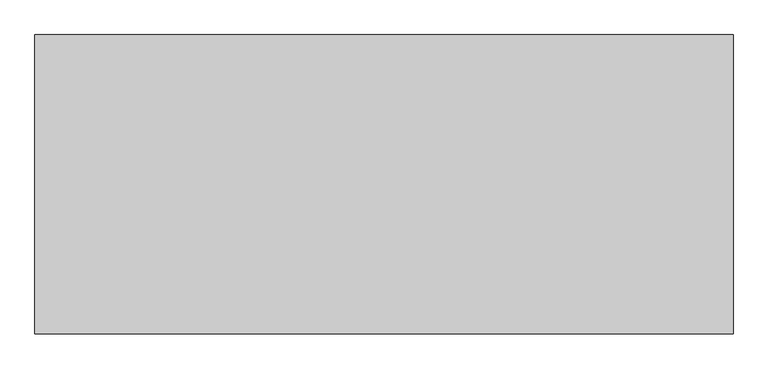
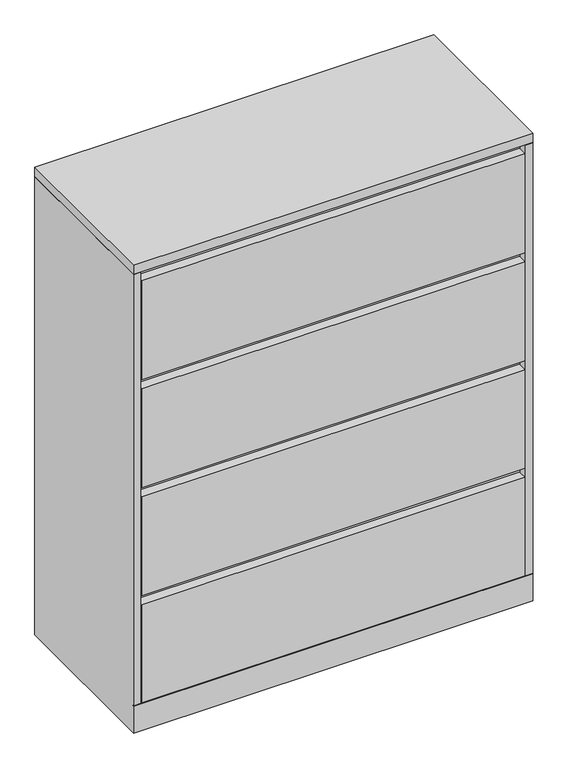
"""IFC4 building model written with IfcOpenShell, lengths in millimetres: furniture geometry, Steelcase - Universal Storage - Lateral File - 3 and 4 High - Flush Steel : 4 Drawers - 18D x 42W."""

from ifc_helpers import new_model, si_unit, frame, origin, place, context, project, spatial, polyline, outline, extrude, faceted_brep, source, transform, mapped, element, save


def furniture_0a39d81d(model_context):
    return source(origin(), model_context, "Body", "SolidModel", [
        extrude(outline(polyline([(1066.8, 457.2), (1066.8, 0.0), (0.0, 0.0), (0.0, 457.2), (1066.8, 457.2)])), frame((0.0, 0.0, 1295.4), z_axis=(0.0, 0.0, 1.0), x_axis=(1.0, 0.0, 0.0)), (0.0, 0.0, 1.0), 25.4),
        faceted_brep([(1066.8, 0.0, 0.0), (1066.8, 457.2, 0.0), (1066.8, 457.2, 1293.8759651), (1066.8, 0.0, 1293.8759651), (1066.8, 0.0, 77.7239985), (1066.8, 1.524, 77.7239985), (1066.8, 1.524, 76.2), (1066.8, 0.0, 76.2), (0.0, 0.0, 0.0), (0.0, 0.0, 76.2), (0.0, 1.524, 76.2), (0.0, 1.524, 77.7239985), (0.0, 0.0, 77.7239985), (0.0, 0.0, 1293.8759651), (0.0, 457.2, 1293.8759651), (0.0, 457.2, 0.0), (19.304, 0.0, 1293.8759651), (19.304, 25.4000121, 1293.8759651), (1047.496, 25.4000121, 1293.8759651), (1047.496, 0.0, 1293.8759651), (19.304, 25.4000121, 101.600003), (1047.496, 25.4000121, 101.600003), (19.304, 1.524, 101.600003), (1047.496, 1.524, 101.600003), (1047.496, 1.524, 77.7239985), (19.304, 1.524, 77.7239985), (19.304, 0.0, 77.7239985), (1047.496, 0.0, 77.7239985)], [[[0, 1, 2, 3, 4, 5, 6, 7]], [[8, 9, 10, 11, 12, 13, 14, 15]], [[1, 0, 8, 15]], [[2, 1, 15, 14]], [[3, 2, 14, 13, 16, 17, 18, 19]], [[17, 20, 21, 18]], [[20, 22, 23, 21]], [[10, 6, 5, 24, 23, 22, 25, 11]], [[7, 6, 10, 9]], [[0, 7, 9, 8]], [[17, 16, 26, 25, 22, 20]], [[26, 16, 13, 12]], [[25, 26, 12, 11]], [[24, 27, 19, 18, 21, 23]], [[27, 24, 5, 4]], [[19, 27, 4, 3]]]),
        extrude(outline(polyline([(1041.4000242, 431.7999992), (1041.4000242, 25.4000121), (25.4000008, 25.4000121), (25.4000008, 431.7999992), (1041.4000242, 431.7999992)])), frame((0.0, 0.0, 1293.8759651), z_axis=(0.0, 0.0, 1.0), x_axis=(1.0, 0.0, 0.0)), (0.0, 0.0, 1.0), 1.5240349),
        extrude(outline(polyline([(1045.9719835, 0.0), (20.8280006, 0.0), (20.8280006, 25.4000121), (1045.9719835, 25.4000121), (1045.9719835, 0.0)])), frame((0.0, 0.0, 990.6), z_axis=(0.0, 0.0, 1.0), x_axis=(1.0, 0.0, 0.0)), (0.0, 0.0, 1.0), 279.4),
        extrude(outline(polyline([(1045.9719835, 0.0), (20.8280006, 0.0), (20.8280006, 25.4000121), (1045.9719835, 25.4000121), (1045.9719835, 0.0)])), frame((0.0, 0.0, 685.8), z_axis=(0.0, 0.0, 1.0), x_axis=(1.0, 0.0, 0.0)), (0.0, 0.0, 1.0), 279.4),
        extrude(outline(polyline([(1045.9719835, 0.0), (20.8280006, 0.0), (20.8280006, 25.4000121), (1045.9719835, 25.4000121), (1045.9719835, 0.0)])), frame((0.0, 0.0, 381.0), z_axis=(0.0, 0.0, 1.0), x_axis=(1.0, 0.0, 0.0)), (0.0, 0.0, 1.0), 279.4),
        extrude(outline(polyline([(1045.9719835, 0.0), (20.8280006, 0.0), (20.8280006, 25.4000121), (1045.9719835, 25.4000121), (1045.9719835, 0.0)])), frame((0.0, 0.0, 77.7239985), z_axis=(0.0, 0.0, 1.0), x_axis=(1.0, 0.0, 0.0)), (0.0, 0.0, 1.0), 277.8759893),
    ])


if __name__ == "__main__":
    model = new_model("IFC4")
    model_context = context("Model", 3, world=origin())
    ifc_project = project(units=[si_unit("LENGTHUNIT", "METRE", prefix="MILLI")], contexts=[model_context])
    site = spatial("IfcSite", under=ifc_project)
    building = spatial("IfcBuilding", under=site)
    placement = place(None, origin())
    furniture_shape = furniture_0a39d81d(model_context)
    element("IfcFurniture", 1, ObjectType="Steelcase - Universal Storage - Lateral File - 3 and 4 High - Flush Steel : 4 Drawers - 18D x 42W", at=placement, inside=building, context=model_context, shape_type="MappedRepresentation", body=[
        mapped(furniture_shape, transform((0.0, 0.0, 0.0), x_axis=(1.0, 0.0, 0.0), y_axis=(0.0, 1.0, 0.0), z_axis=(0.0, 0.0, 1.0))),
    ])
    save(model, "model.ifc")
